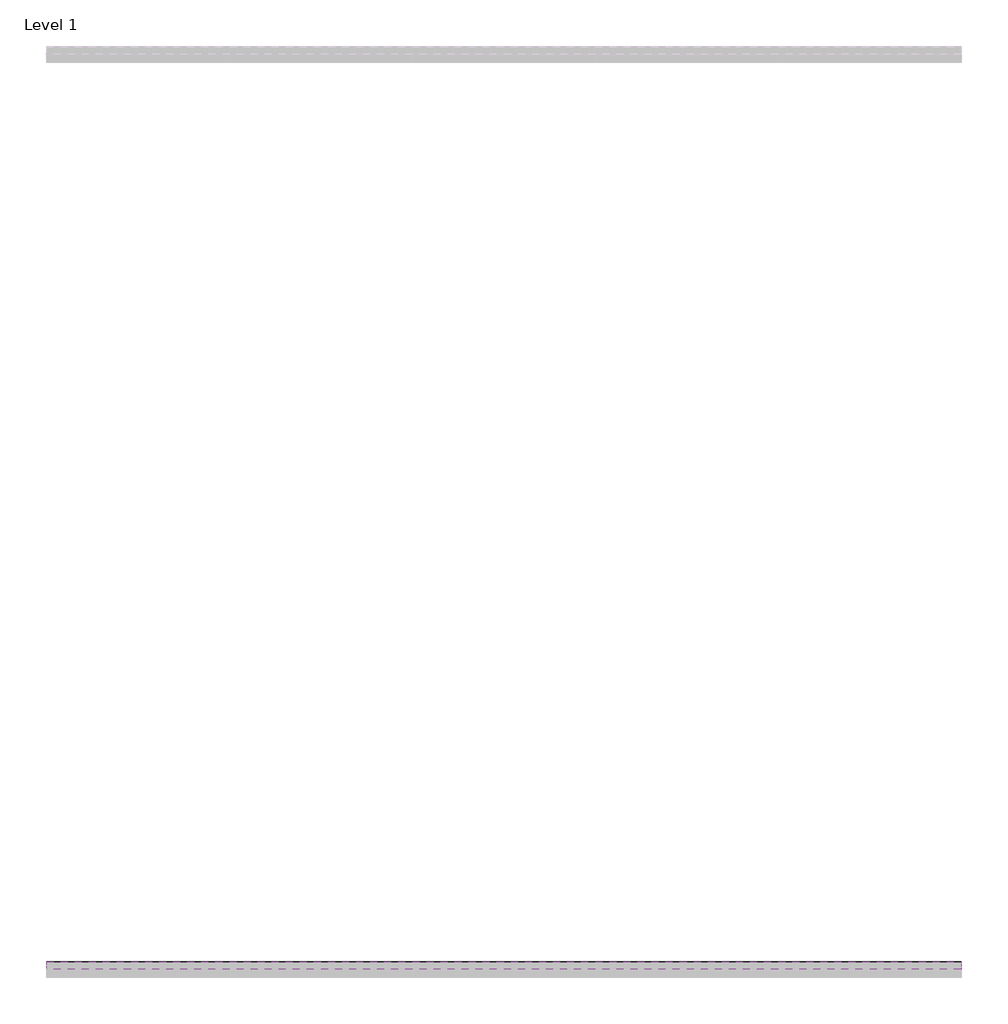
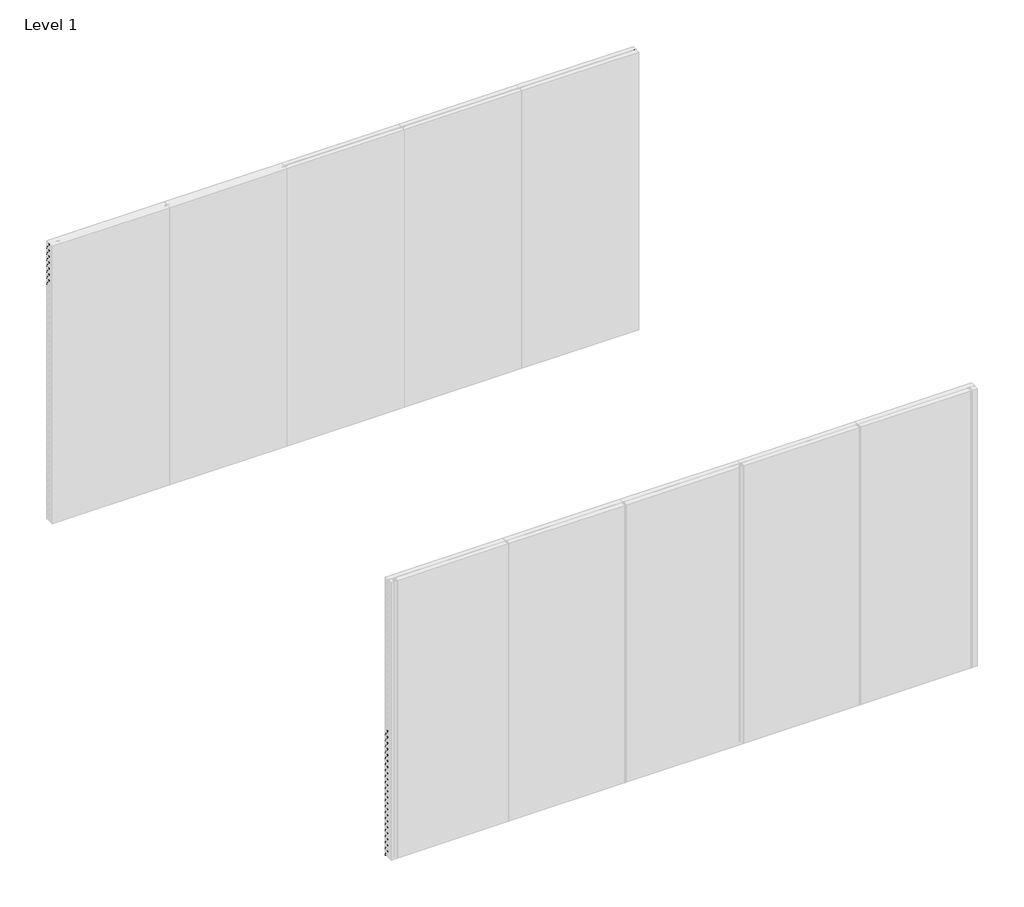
# One storey, part 4 of 7: 28 proxies.
"""IFC4 building model written with IfcOpenShell, lengths in millimetres."""

from ifc_helpers import new_model, si_unit, point, frame, frame_2d, origin, place, context, project, spatial, polyline, circle_curve, trimmed, segment, composite_curve, outline, extrude, element, save

model = new_model("IFC4")

# Units and contexts
model_context = context("Model", 3, world=origin())
ifc_project = project(units=[si_unit("LENGTHUNIT", "METRE", prefix="MILLI")], contexts=[model_context])

# Site, building, storey
site = spatial("IfcSite", under=ifc_project)
building = spatial("IfcBuilding", under=site)
storey = spatial("IfcBuildingStorey", under=building, Name="Level 1", Elevation=0.0)

# Proxies
placement = place(None, origin())
element("IfcBuildingElementProxy", 1, Name="Wall Sweeps", at=placement, inside=storey, context=model_context, shape_type="SweptSolid", body=[
    extrude(outline(composite_curve([segment(polyline([(-1992.5, 2976.0025181), (-1992.5, 2983.9509429), (-1994.5, 2983.9509429), (-1994.5, 2981.5421319), (-1996.0, 2981.5421319), (-1996.0, 2988.6499999), (-1994.5, 2988.6499999), (-1994.5, 2985.4509429), (-1992.5, 2985.4509429), (-1992.5, 2988.7999999), (-1992.1784609, 2990.0), (-1987.7000054, 2990.0), (-1987.7000054, 2986.8499997), (-1989.0835735, 2988.4999997), (-1991.0, 2988.4999997), (-1991.0, 2976.6085574), (-1946.0, 2930.0096933), (-1946.0, 2914.0), (-1947.5, 2916.6798), (-1947.5, 2919.1208496), (-1948.5, 2919.1208496), (-1948.5, 2920.6208496), (-1947.5, 2920.6208496), (-1947.5, 2929.4036539), (-1961.2088107, 2943.599543), (-1963.4375599, 2941.3707939), (-1962.8739549, 2940.8071888)]), True, "CONTINUOUS"), segment(trimmed(circle_curve(frame_2d((-1963.2275083, 2940.4536354)), 0.5), [point((-1962.8739549, 2940.8071888))], [point((-1963.3569178, 2939.9706725))], False, "CARTESIAN"), True, "CONTINUOUS"), segment(polyline([(-1963.3569178, 2939.9706725), (-1966.1977917, 2940.7318824), (-1962.250957, 2944.6787171), (-1992.5, 2976.0025181)]), True, "CONTINUOUS")], self_intersect=False)), frame((0.0, 0.0, 0.0), z_axis=(1.0, 0.0, 0.0), x_axis=(0.0, 1.0, 0.0)), (0.0, 0.0, 1.0), 6000.0),
])
element("IfcBuildingElementProxy", 2, Name="Wall Sweeps", at=placement, inside=storey, context=model_context, shape_type="SweptSolid", body=[
    extrude(outline(composite_curve([segment(polyline([(-1992.5, 2911.0025181), (-1992.5, 2918.9509429), (-1994.5, 2918.9509429), (-1994.5, 2916.5421319), (-1996.0, 2916.5421319), (-1996.0, 2923.6499999), (-1994.5, 2923.6499999), (-1994.5, 2920.4509429), (-1992.5, 2920.4509429), (-1992.5, 2923.7999999), (-1992.1784609, 2925.0), (-1987.7000054, 2925.0), (-1987.7000054, 2921.8499997), (-1989.0835735, 2923.4999997), (-1991.0, 2923.4999997), (-1991.0, 2911.6085574), (-1946.0, 2865.0096933), (-1946.0, 2849.0), (-1947.5, 2851.6798), (-1947.5, 2854.1208496), (-1948.5, 2854.1208496), (-1948.5, 2855.6208496), (-1947.5, 2855.6208496), (-1947.5, 2864.4036539), (-1961.2088107, 2878.599543), (-1963.4375599, 2876.3707939), (-1962.8739549, 2875.8071888)]), True, "CONTINUOUS"), segment(trimmed(circle_curve(frame_2d((-1963.2275083, 2875.4536354)), 0.5), [point((-1962.8739549, 2875.8071888))], [point((-1963.3569178, 2874.9706725))], False, "CARTESIAN"), True, "CONTINUOUS"), segment(polyline([(-1963.3569178, 2874.9706725), (-1966.1977917, 2875.7318824), (-1962.250957, 2879.6787171), (-1992.5, 2911.0025181)]), True, "CONTINUOUS")], self_intersect=False)), frame((0.0, 0.0, 0.0), z_axis=(1.0, 0.0, 0.0), x_axis=(0.0, 1.0, 0.0)), (0.0, 0.0, 1.0), 6000.0),
])
element("IfcBuildingElementProxy", 3, Name="Wall Sweeps", at=placement, inside=storey, context=model_context, shape_type="SweptSolid", body=[
    extrude(outline(composite_curve([segment(polyline([(-1992.5, 2846.0025181), (-1992.5, 2853.9509429), (-1994.5, 2853.9509429), (-1994.5, 2851.5421319), (-1996.0, 2851.5421319), (-1996.0, 2858.6499999), (-1994.5, 2858.6499999), (-1994.5, 2855.4509429), (-1992.5, 2855.4509429), (-1992.5, 2858.7999999), (-1992.1784609, 2860.0), (-1987.7000054, 2860.0), (-1987.7000054, 2856.8499997), (-1989.0835735, 2858.4999997), (-1991.0, 2858.4999997), (-1991.0, 2846.6085574), (-1946.0, 2800.0096933), (-1946.0, 2784.0), (-1947.5, 2786.6798), (-1947.5, 2789.1208496), (-1948.5, 2789.1208496), (-1948.5, 2790.6208496), (-1947.5, 2790.6208496), (-1947.5, 2799.4036539), (-1961.2088107, 2813.599543), (-1963.4375599, 2811.3707939), (-1962.8739549, 2810.8071888)]), True, "CONTINUOUS"), segment(trimmed(circle_curve(frame_2d((-1963.2275083, 2810.4536354)), 0.5), [point((-1962.8739549, 2810.8071888))], [point((-1963.3569178, 2809.9706725))], False, "CARTESIAN"), True, "CONTINUOUS"), segment(polyline([(-1963.3569178, 2809.9706725), (-1966.1977917, 2810.7318824), (-1962.250957, 2814.6787171), (-1992.5, 2846.0025181)]), True, "CONTINUOUS")], self_intersect=False)), frame((0.0, 0.0, 0.0), z_axis=(1.0, 0.0, 0.0), x_axis=(0.0, 1.0, 0.0)), (0.0, 0.0, 1.0), 6000.0),
])
element("IfcBuildingElementProxy", 4, Name="Wall Sweeps", at=placement, inside=storey, context=model_context, shape_type="SweptSolid", body=[
    extrude(outline(composite_curve([segment(polyline([(-1992.5, 2781.0025181), (-1992.5, 2788.9509429), (-1994.5, 2788.9509429), (-1994.5, 2786.5421319), (-1996.0, 2786.5421319), (-1996.0, 2793.6499999), (-1994.5, 2793.6499999), (-1994.5, 2790.4509429), (-1992.5, 2790.4509429), (-1992.5, 2793.7999999), (-1992.1784609, 2795.0), (-1987.7000054, 2795.0), (-1987.7000054, 2791.8499997), (-1989.0835735, 2793.4999997), (-1991.0, 2793.4999997), (-1991.0, 2781.6085574), (-1946.0, 2735.0096933), (-1946.0, 2719.0), (-1947.5, 2721.6798), (-1947.5, 2724.1208496), (-1948.5, 2724.1208496), (-1948.5, 2725.6208496), (-1947.5, 2725.6208496), (-1947.5, 2734.4036539), (-1961.2088107, 2748.599543), (-1963.4375599, 2746.3707939), (-1962.8739549, 2745.8071888)]), True, "CONTINUOUS"), segment(trimmed(circle_curve(frame_2d((-1963.2275083, 2745.4536354)), 0.5), [point((-1962.8739549, 2745.8071888))], [point((-1963.3569178, 2744.9706725))], False, "CARTESIAN"), True, "CONTINUOUS"), segment(polyline([(-1963.3569178, 2744.9706725), (-1966.1977917, 2745.7318824), (-1962.250957, 2749.6787171), (-1992.5, 2781.0025181)]), True, "CONTINUOUS")], self_intersect=False)), frame((0.0, 0.0, 0.0), z_axis=(1.0, 0.0, 0.0), x_axis=(0.0, 1.0, 0.0)), (0.0, 0.0, 1.0), 6000.0),
])
element("IfcBuildingElementProxy", 5, Name="Wall Sweeps", at=placement, inside=storey, context=model_context, shape_type="SweptSolid", body=[
    extrude(outline(composite_curve([segment(polyline([(-1992.5, 2716.0025181), (-1992.5, 2723.9509429), (-1994.5, 2723.9509429), (-1994.5, 2721.5421319), (-1996.0, 2721.5421319), (-1996.0, 2728.6499999), (-1994.5, 2728.6499999), (-1994.5, 2725.4509429), (-1992.5, 2725.4509429), (-1992.5, 2728.7999999), (-1992.1784609, 2730.0), (-1987.7000054, 2730.0), (-1987.7000054, 2726.8499997), (-1989.0835735, 2728.4999997), (-1991.0, 2728.4999997), (-1991.0, 2716.6085574), (-1946.0, 2670.0096933), (-1946.0, 2654.0), (-1947.5, 2656.6798), (-1947.5, 2659.1208496), (-1948.5, 2659.1208496), (-1948.5, 2660.6208496), (-1947.5, 2660.6208496), (-1947.5, 2669.4036539), (-1961.2088107, 2683.599543), (-1963.4375599, 2681.3707939), (-1962.8739549, 2680.8071888)]), True, "CONTINUOUS"), segment(trimmed(circle_curve(frame_2d((-1963.2275083, 2680.4536354)), 0.5), [point((-1962.8739549, 2680.8071888))], [point((-1963.3569178, 2679.9706725))], False, "CARTESIAN"), True, "CONTINUOUS"), segment(polyline([(-1963.3569178, 2679.9706725), (-1966.1977917, 2680.7318824), (-1962.250957, 2684.6787171), (-1992.5, 2716.0025181)]), True, "CONTINUOUS")], self_intersect=False)), frame((0.0, 0.0, 0.0), z_axis=(1.0, 0.0, 0.0), x_axis=(0.0, 1.0, 0.0)), (0.0, 0.0, 1.0), 6000.0),
])
element("IfcBuildingElementProxy", 6, Name="Wall Sweeps", at=placement, inside=storey, context=model_context, shape_type="SweptSolid", body=[
    extrude(outline(composite_curve([segment(polyline([(-1992.5, 2651.0025181), (-1992.5, 2658.9509429), (-1994.5, 2658.9509429), (-1994.5, 2656.5421319), (-1996.0, 2656.5421319), (-1996.0, 2663.6499999), (-1994.5, 2663.6499999), (-1994.5, 2660.4509429), (-1992.5, 2660.4509429), (-1992.5, 2663.7999999), (-1992.1784609, 2665.0), (-1987.7000054, 2665.0), (-1987.7000054, 2661.8499997), (-1989.0835735, 2663.4999997), (-1991.0, 2663.4999997), (-1991.0, 2651.6085574), (-1946.0, 2605.0096933), (-1946.0, 2589.0), (-1947.5, 2591.6798), (-1947.5, 2594.1208496), (-1948.5, 2594.1208496), (-1948.5, 2595.6208496), (-1947.5, 2595.6208496), (-1947.5, 2604.4036539), (-1961.2088107, 2618.599543), (-1963.4375599, 2616.3707939), (-1962.8739549, 2615.8071888)]), True, "CONTINUOUS"), segment(trimmed(circle_curve(frame_2d((-1963.2275083, 2615.4536354)), 0.5), [point((-1962.8739549, 2615.8071888))], [point((-1963.3569178, 2614.9706725))], False, "CARTESIAN"), True, "CONTINUOUS"), segment(polyline([(-1963.3569178, 2614.9706725), (-1966.1977917, 2615.7318824), (-1962.250957, 2619.6787171), (-1992.5, 2651.0025181)]), True, "CONTINUOUS")], self_intersect=False)), frame((0.0, 0.0, 0.0), z_axis=(1.0, 0.0, 0.0), x_axis=(0.0, 1.0, 0.0)), (0.0, 0.0, 1.0), 6000.0),
])
element("IfcBuildingElementProxy", 7, Name="Wall Sweeps", at=placement, inside=storey, context=model_context, shape_type="SweptSolid", body=[
    extrude(outline(composite_curve([segment(polyline([(-1992.5, 2586.0025181), (-1992.5, 2593.9509429), (-1994.5, 2593.9509429), (-1994.5, 2591.5421319), (-1996.0, 2591.5421319), (-1996.0, 2598.6499999), (-1994.5, 2598.6499999), (-1994.5, 2595.4509429), (-1992.5, 2595.4509429), (-1992.5, 2598.7999999), (-1992.1784609, 2600.0), (-1987.7000054, 2600.0), (-1987.7000054, 2596.8499997), (-1989.0835735, 2598.4999997), (-1991.0, 2598.4999997), (-1991.0, 2586.6085574), (-1946.0, 2540.0096933), (-1946.0, 2524.0), (-1947.5, 2526.6798), (-1947.5, 2529.1208496), (-1948.5, 2529.1208496), (-1948.5, 2530.6208496), (-1947.5, 2530.6208496), (-1947.5, 2539.4036539), (-1961.2088107, 2553.599543), (-1963.4375599, 2551.3707939), (-1962.8739549, 2550.8071888)]), True, "CONTINUOUS"), segment(trimmed(circle_curve(frame_2d((-1963.2275083, 2550.4536354)), 0.5), [point((-1962.8739549, 2550.8071888))], [point((-1963.3569178, 2549.9706725))], False, "CARTESIAN"), True, "CONTINUOUS"), segment(polyline([(-1963.3569178, 2549.9706725), (-1966.1977917, 2550.7318824), (-1962.250957, 2554.6787171), (-1992.5, 2586.0025181)]), True, "CONTINUOUS")], self_intersect=False)), frame((0.0, 0.0, 0.0), z_axis=(1.0, 0.0, 0.0), x_axis=(0.0, 1.0, 0.0)), (0.0, 0.0, 1.0), 6000.0),
])
element("IfcBuildingElementProxy", 8, Name="Wall Sweeps", at=placement, inside=storey, context=model_context, shape_type="SweptSolid", body=[
    extrude(outline(composite_curve([segment(polyline([(-7992.5, 1351.0025181), (-7992.5, 1358.9509429), (-7994.5, 1358.9509429), (-7994.5, 1356.5421319), (-7996.0, 1356.5421319), (-7996.0, 1363.6499999), (-7994.5, 1363.6499999), (-7994.5, 1360.4509429), (-7992.5, 1360.4509429), (-7992.5, 1363.7999999), (-7992.1784609, 1365.0), (-7987.7000054, 1365.0), (-7987.7000054, 1361.8499997), (-7989.0835735, 1363.4999997), (-7991.0, 1363.4999997), (-7991.0, 1351.6085574), (-7946.0, 1305.0096933), (-7946.0, 1289.0), (-7947.5, 1291.6798), (-7947.5, 1294.1208496), (-7948.5, 1294.1208496), (-7948.5, 1295.6208496), (-7947.5, 1295.6208496), (-7947.5, 1304.4036539), (-7961.2088107, 1318.599543), (-7963.4375599, 1316.3707939), (-7962.8739549, 1315.8071888)]), True, "CONTINUOUS"), segment(trimmed(circle_curve(frame_2d((-7963.2275083, 1315.4536354)), 0.5), [point((-7962.8739549, 1315.8071888))], [point((-7963.3569178, 1314.9706725))], False, "CARTESIAN"), True, "CONTINUOUS"), segment(polyline([(-7963.3569178, 1314.9706725), (-7966.1977917, 1315.7318824), (-7962.250957, 1319.6787171), (-7992.5, 1351.0025181)]), True, "CONTINUOUS")], self_intersect=False)), frame((0.0, 0.0, 0.0), z_axis=(1.0, 0.0, 0.0), x_axis=(0.0, 1.0, 0.0)), (0.0, 0.0, 1.0), 6000.0),
])
element("IfcBuildingElementProxy", 9, Name="Wall Sweeps", at=placement, inside=storey, context=model_context, shape_type="SweptSolid", body=[
    extrude(outline(composite_curve([segment(polyline([(-7992.5, 1286.0025181), (-7992.5, 1293.9509429), (-7994.5, 1293.9509429), (-7994.5, 1291.5421319), (-7996.0, 1291.5421319), (-7996.0, 1298.6499999), (-7994.5, 1298.6499999), (-7994.5, 1295.4509429), (-7992.5, 1295.4509429), (-7992.5, 1298.7999999), (-7992.1784609, 1300.0), (-7987.7000054, 1300.0), (-7987.7000054, 1296.8499997), (-7989.0835735, 1298.4999997), (-7991.0, 1298.4999997), (-7991.0, 1286.6085574), (-7946.0, 1240.0096933), (-7946.0, 1224.0), (-7947.5, 1226.6798), (-7947.5, 1229.1208496), (-7948.5, 1229.1208496), (-7948.5, 1230.6208496), (-7947.5, 1230.6208496), (-7947.5, 1239.4036539), (-7961.2088107, 1253.599543), (-7963.4375599, 1251.3707939), (-7962.8739549, 1250.8071888)]), True, "CONTINUOUS"), segment(trimmed(circle_curve(frame_2d((-7963.2275083, 1250.4536354)), 0.5), [point((-7962.8739549, 1250.8071888))], [point((-7963.3569178, 1249.9706725))], False, "CARTESIAN"), True, "CONTINUOUS"), segment(polyline([(-7963.3569178, 1249.9706725), (-7966.1977917, 1250.7318824), (-7962.250957, 1254.6787171), (-7992.5, 1286.0025181)]), True, "CONTINUOUS")], self_intersect=False)), frame((0.0, 0.0, 0.0), z_axis=(1.0, 0.0, 0.0), x_axis=(0.0, 1.0, 0.0)), (0.0, 0.0, 1.0), 6000.0),
])
element("IfcBuildingElementProxy", 10, Name="Wall Sweeps", at=placement, inside=storey, context=model_context, shape_type="SweptSolid", body=[
    extrude(outline(composite_curve([segment(polyline([(-7992.5, 1221.0025181), (-7992.5, 1228.9509429), (-7994.5, 1228.9509429), (-7994.5, 1226.5421319), (-7996.0, 1226.5421319), (-7996.0, 1233.6499999), (-7994.5, 1233.6499999), (-7994.5, 1230.4509429), (-7992.5, 1230.4509429), (-7992.5, 1233.7999999), (-7992.1784609, 1235.0), (-7987.7000054, 1235.0), (-7987.7000054, 1231.8499997), (-7989.0835735, 1233.4999997), (-7991.0, 1233.4999997), (-7991.0, 1221.6085574), (-7946.0, 1175.0096933), (-7946.0, 1159.0), (-7947.5, 1161.6798), (-7947.5, 1164.1208496), (-7948.5, 1164.1208496), (-7948.5, 1165.6208496), (-7947.5, 1165.6208496), (-7947.5, 1174.4036539), (-7961.2088107, 1188.599543), (-7963.4375599, 1186.3707939), (-7962.8739549, 1185.8071888)]), True, "CONTINUOUS"), segment(trimmed(circle_curve(frame_2d((-7963.2275083, 1185.4536354)), 0.5), [point((-7962.8739549, 1185.8071888))], [point((-7963.3569178, 1184.9706725))], False, "CARTESIAN"), True, "CONTINUOUS"), segment(polyline([(-7963.3569178, 1184.9706725), (-7966.1977917, 1185.7318824), (-7962.250957, 1189.6787171), (-7992.5, 1221.0025181)]), True, "CONTINUOUS")], self_intersect=False)), frame((0.0, 0.0, 0.0), z_axis=(1.0, 0.0, 0.0), x_axis=(0.0, 1.0, 0.0)), (0.0, 0.0, 1.0), 6000.0),
])
element("IfcBuildingElementProxy", 11, Name="Wall Sweeps", at=placement, inside=storey, context=model_context, shape_type="SweptSolid", body=[
    extrude(outline(composite_curve([segment(polyline([(-7992.5, 1156.0025181), (-7992.5, 1163.9509429), (-7994.5, 1163.9509429), (-7994.5, 1161.5421319), (-7996.0, 1161.5421319), (-7996.0, 1168.6499999), (-7994.5, 1168.6499999), (-7994.5, 1165.4509429), (-7992.5, 1165.4509429), (-7992.5, 1168.7999999), (-7992.1784609, 1170.0), (-7987.7000054, 1170.0), (-7987.7000054, 1166.8499997), (-7989.0835735, 1168.4999997), (-7991.0, 1168.4999997), (-7991.0, 1156.6085574), (-7946.0, 1110.0096933), (-7946.0, 1094.0), (-7947.5, 1096.6798), (-7947.5, 1099.1208496), (-7948.5, 1099.1208496), (-7948.5, 1100.6208496), (-7947.5, 1100.6208496), (-7947.5, 1109.4036539), (-7961.2088107, 1123.599543), (-7963.4375599, 1121.3707939), (-7962.8739549, 1120.8071888)]), True, "CONTINUOUS"), segment(trimmed(circle_curve(frame_2d((-7963.2275083, 1120.4536354)), 0.5), [point((-7962.8739549, 1120.8071888))], [point((-7963.3569178, 1119.9706725))], False, "CARTESIAN"), True, "CONTINUOUS"), segment(polyline([(-7963.3569178, 1119.9706725), (-7966.1977917, 1120.7318824), (-7962.250957, 1124.6787171), (-7992.5, 1156.0025181)]), True, "CONTINUOUS")], self_intersect=False)), frame((0.0, 0.0, 0.0), z_axis=(1.0, 0.0, 0.0), x_axis=(0.0, 1.0, 0.0)), (0.0, 0.0, 1.0), 6000.0),
])
element("IfcBuildingElementProxy", 12, Name="Wall Sweeps", at=placement, inside=storey, context=model_context, shape_type="SweptSolid", body=[
    extrude(outline(composite_curve([segment(polyline([(-7992.5, 1091.0025181), (-7992.5, 1098.9509429), (-7994.5, 1098.9509429), (-7994.5, 1096.5421319), (-7996.0, 1096.5421319), (-7996.0, 1103.6499999), (-7994.5, 1103.6499999), (-7994.5, 1100.4509429), (-7992.5, 1100.4509429), (-7992.5, 1103.7999999), (-7992.1784609, 1105.0), (-7987.7000054, 1105.0), (-7987.7000054, 1101.8499997), (-7989.0835735, 1103.4999997), (-7991.0, 1103.4999997), (-7991.0, 1091.6085574), (-7946.0, 1045.0096933), (-7946.0, 1029.0), (-7947.5, 1031.6798), (-7947.5, 1034.1208496), (-7948.5, 1034.1208496), (-7948.5, 1035.6208496), (-7947.5, 1035.6208496), (-7947.5, 1044.4036539), (-7961.2088107, 1058.599543), (-7963.4375599, 1056.3707939), (-7962.8739549, 1055.8071888)]), True, "CONTINUOUS"), segment(trimmed(circle_curve(frame_2d((-7963.2275083, 1055.4536354)), 0.5), [point((-7962.8739549, 1055.8071888))], [point((-7963.3569178, 1054.9706725))], False, "CARTESIAN"), True, "CONTINUOUS"), segment(polyline([(-7963.3569178, 1054.9706725), (-7966.1977917, 1055.7318824), (-7962.250957, 1059.6787171), (-7992.5, 1091.0025181)]), True, "CONTINUOUS")], self_intersect=False)), frame((0.0, 0.0, 0.0), z_axis=(1.0, 0.0, 0.0), x_axis=(0.0, 1.0, 0.0)), (0.0, 0.0, 1.0), 6000.0),
])
element("IfcBuildingElementProxy", 13, Name="Wall Sweeps", at=placement, inside=storey, context=model_context, shape_type="SweptSolid", body=[
    extrude(outline(composite_curve([segment(polyline([(-7992.5, 1026.0025181), (-7992.5, 1033.9509429), (-7994.5, 1033.9509429), (-7994.5, 1031.5421319), (-7996.0, 1031.5421319), (-7996.0, 1038.6499999), (-7994.5, 1038.6499999), (-7994.5, 1035.4509429), (-7992.5, 1035.4509429), (-7992.5, 1038.7999999), (-7992.1784609, 1040.0), (-7987.7000054, 1040.0), (-7987.7000054, 1036.8499997), (-7989.0835735, 1038.4999997), (-7991.0, 1038.4999997), (-7991.0, 1026.6085574), (-7946.0, 980.0096933), (-7946.0, 964.0), (-7947.5, 966.6798), (-7947.5, 969.1208496), (-7948.5, 969.1208496), (-7948.5, 970.6208496), (-7947.5, 970.6208496), (-7947.5, 979.4036539), (-7961.2088107, 993.599543), (-7963.4375599, 991.3707939), (-7962.8739549, 990.8071888)]), True, "CONTINUOUS"), segment(trimmed(circle_curve(frame_2d((-7963.2275083, 990.4536354)), 0.5), [point((-7962.8739549, 990.8071888))], [point((-7963.3569178, 989.9706725))], False, "CARTESIAN"), True, "CONTINUOUS"), segment(polyline([(-7963.3569178, 989.9706725), (-7966.1977917, 990.7318824), (-7962.250957, 994.6787171), (-7992.5, 1026.0025181)]), True, "CONTINUOUS")], self_intersect=False)), frame((0.0, 0.0, 0.0), z_axis=(1.0, 0.0, 0.0), x_axis=(0.0, 1.0, 0.0)), (0.0, 0.0, 1.0), 6000.0),
])
element("IfcBuildingElementProxy", 14, Name="Wall Sweeps", at=placement, inside=storey, context=model_context, shape_type="SweptSolid", body=[
    extrude(outline(composite_curve([segment(polyline([(-7992.5, 961.0025181), (-7992.5, 968.9509429), (-7994.5, 968.9509429), (-7994.5, 966.5421319), (-7996.0, 966.5421319), (-7996.0, 973.6499999), (-7994.5, 973.6499999), (-7994.5, 970.4509429), (-7992.5, 970.4509429), (-7992.5, 973.7999999), (-7992.1784609, 975.0), (-7987.7000054, 975.0), (-7987.7000054, 971.8499997), (-7989.0835735, 973.4999997), (-7991.0, 973.4999997), (-7991.0, 961.6085574), (-7946.0, 915.0096933), (-7946.0, 899.0), (-7947.5, 901.6798), (-7947.5, 904.1208496), (-7948.5, 904.1208496), (-7948.5, 905.6208496), (-7947.5, 905.6208496), (-7947.5, 914.4036539), (-7961.2088107, 928.599543), (-7963.4375599, 926.3707939), (-7962.8739549, 925.8071888)]), True, "CONTINUOUS"), segment(trimmed(circle_curve(frame_2d((-7963.2275083, 925.4536354)), 0.5), [point((-7962.8739549, 925.8071888))], [point((-7963.3569178, 924.9706725))], False, "CARTESIAN"), True, "CONTINUOUS"), segment(polyline([(-7963.3569178, 924.9706725), (-7966.1977917, 925.7318824), (-7962.250957, 929.6787171), (-7992.5, 961.0025181)]), True, "CONTINUOUS")], self_intersect=False)), frame((0.0, 0.0, 0.0), z_axis=(1.0, 0.0, 0.0), x_axis=(0.0, 1.0, 0.0)), (0.0, 0.0, 1.0), 6000.0),
])
element("IfcBuildingElementProxy", 15, Name="Wall Sweeps", at=placement, inside=storey, context=model_context, shape_type="SweptSolid", body=[
    extrude(outline(composite_curve([segment(polyline([(-7992.5, 896.0025181), (-7992.5, 903.9509429), (-7994.5, 903.9509429), (-7994.5, 901.5421319), (-7996.0, 901.5421319), (-7996.0, 908.6499999), (-7994.5, 908.6499999), (-7994.5, 905.4509429), (-7992.5, 905.4509429), (-7992.5, 908.7999999), (-7992.1784609, 910.0), (-7987.7000054, 910.0), (-7987.7000054, 906.8499997), (-7989.0835735, 908.4999997), (-7991.0, 908.4999997), (-7991.0, 896.6085574), (-7946.0, 850.0096933), (-7946.0, 834.0), (-7947.5, 836.6798), (-7947.5, 839.1208496), (-7948.5, 839.1208496), (-7948.5, 840.6208496), (-7947.5, 840.6208496), (-7947.5, 849.4036539), (-7961.2088107, 863.599543), (-7963.4375599, 861.3707939), (-7962.8739549, 860.8071888)]), True, "CONTINUOUS"), segment(trimmed(circle_curve(frame_2d((-7963.2275083, 860.4536354)), 0.5), [point((-7962.8739549, 860.8071888))], [point((-7963.3569178, 859.9706725))], False, "CARTESIAN"), True, "CONTINUOUS"), segment(polyline([(-7963.3569178, 859.9706725), (-7966.1977917, 860.7318824), (-7962.250957, 864.6787171), (-7992.5, 896.0025181)]), True, "CONTINUOUS")], self_intersect=False)), frame((0.0, 0.0, 0.0), z_axis=(1.0, 0.0, 0.0), x_axis=(0.0, 1.0, 0.0)), (0.0, 0.0, 1.0), 6000.0),
])
element("IfcBuildingElementProxy", 16, Name="Wall Sweeps", at=placement, inside=storey, context=model_context, shape_type="SweptSolid", body=[
    extrude(outline(composite_curve([segment(polyline([(-7992.5, 831.0025181), (-7992.5, 838.9509429), (-7994.5, 838.9509429), (-7994.5, 836.5421319), (-7996.0, 836.5421319), (-7996.0, 843.6499999), (-7994.5, 843.6499999), (-7994.5, 840.4509429), (-7992.5, 840.4509429), (-7992.5, 843.7999999), (-7992.1784609, 845.0), (-7987.7000054, 845.0), (-7987.7000054, 841.8499997), (-7989.0835735, 843.4999997), (-7991.0, 843.4999997), (-7991.0, 831.6085574), (-7946.0, 785.0096933), (-7946.0, 769.0), (-7947.5, 771.6798), (-7947.5, 774.1208496), (-7948.5, 774.1208496), (-7948.5, 775.6208496), (-7947.5, 775.6208496), (-7947.5, 784.4036539), (-7961.2088107, 798.599543), (-7963.4375599, 796.3707939), (-7962.8739549, 795.8071888)]), True, "CONTINUOUS"), segment(trimmed(circle_curve(frame_2d((-7963.2275083, 795.4536354)), 0.5), [point((-7962.8739549, 795.8071888))], [point((-7963.3569178, 794.9706725))], False, "CARTESIAN"), True, "CONTINUOUS"), segment(polyline([(-7963.3569178, 794.9706725), (-7966.1977917, 795.7318824), (-7962.250957, 799.6787171), (-7992.5, 831.0025181)]), True, "CONTINUOUS")], self_intersect=False)), frame((0.0, 0.0, 0.0), z_axis=(1.0, 0.0, 0.0), x_axis=(0.0, 1.0, 0.0)), (0.0, 0.0, 1.0), 6000.0),
])
element("IfcBuildingElementProxy", 17, Name="Wall Sweeps", at=placement, inside=storey, context=model_context, shape_type="SweptSolid", body=[
    extrude(outline(composite_curve([segment(polyline([(-7992.5, 766.0025181), (-7992.5, 773.9509429), (-7994.5, 773.9509429), (-7994.5, 771.5421319), (-7996.0, 771.5421319), (-7996.0, 778.6499999), (-7994.5, 778.6499999), (-7994.5, 775.4509429), (-7992.5, 775.4509429), (-7992.5, 778.7999999), (-7992.1784609, 780.0), (-7987.7000054, 780.0), (-7987.7000054, 776.8499997), (-7989.0835735, 778.4999997), (-7991.0, 778.4999997), (-7991.0, 766.6085574), (-7946.0, 720.0096933), (-7946.0, 704.0), (-7947.5, 706.6798), (-7947.5, 709.1208496), (-7948.5, 709.1208496), (-7948.5, 710.6208496), (-7947.5, 710.6208496), (-7947.5, 719.4036539), (-7961.2088107, 733.599543), (-7963.4375599, 731.3707939), (-7962.8739549, 730.8071888)]), True, "CONTINUOUS"), segment(trimmed(circle_curve(frame_2d((-7963.2275083, 730.4536354)), 0.5), [point((-7962.8739549, 730.8071888))], [point((-7963.3569178, 729.9706725))], False, "CARTESIAN"), True, "CONTINUOUS"), segment(polyline([(-7963.3569178, 729.9706725), (-7966.1977917, 730.7318824), (-7962.250957, 734.6787171), (-7992.5, 766.0025181)]), True, "CONTINUOUS")], self_intersect=False)), frame((0.0, 0.0, 0.0), z_axis=(1.0, 0.0, 0.0), x_axis=(0.0, 1.0, 0.0)), (0.0, 0.0, 1.0), 6000.0),
])
element("IfcBuildingElementProxy", 18, Name="Wall Sweeps", at=placement, inside=storey, context=model_context, shape_type="SweptSolid", body=[
    extrude(outline(composite_curve([segment(polyline([(-7992.5, 701.0025181), (-7992.5, 708.9509429), (-7994.5, 708.9509429), (-7994.5, 706.5421319), (-7996.0, 706.5421319), (-7996.0, 713.6499999), (-7994.5, 713.6499999), (-7994.5, 710.4509429), (-7992.5, 710.4509429), (-7992.5, 713.7999999), (-7992.1784609, 715.0), (-7987.7000054, 715.0), (-7987.7000054, 711.8499997), (-7989.0835735, 713.4999997), (-7991.0, 713.4999997), (-7991.0, 701.6085574), (-7946.0, 655.0096933), (-7946.0, 639.0), (-7947.5, 641.6798), (-7947.5, 644.1208496), (-7948.5, 644.1208496), (-7948.5, 645.6208496), (-7947.5, 645.6208496), (-7947.5, 654.4036539), (-7961.2088107, 668.599543), (-7963.4375599, 666.3707939), (-7962.8739549, 665.8071888)]), True, "CONTINUOUS"), segment(trimmed(circle_curve(frame_2d((-7963.2275083, 665.4536354)), 0.5), [point((-7962.8739549, 665.8071888))], [point((-7963.3569178, 664.9706725))], False, "CARTESIAN"), True, "CONTINUOUS"), segment(polyline([(-7963.3569178, 664.9706725), (-7966.1977917, 665.7318824), (-7962.250957, 669.6787171), (-7992.5, 701.0025181)]), True, "CONTINUOUS")], self_intersect=False)), frame((0.0, 0.0, 0.0), z_axis=(1.0, 0.0, 0.0), x_axis=(0.0, 1.0, 0.0)), (0.0, 0.0, 1.0), 6000.0),
])
element("IfcBuildingElementProxy", 19, Name="Wall Sweeps", at=placement, inside=storey, context=model_context, shape_type="SweptSolid", body=[
    extrude(outline(composite_curve([segment(polyline([(-7992.5, 636.0025181), (-7992.5, 643.9509429), (-7994.5, 643.9509429), (-7994.5, 641.5421319), (-7996.0, 641.5421319), (-7996.0, 648.6499999), (-7994.5, 648.6499999), (-7994.5, 645.4509429), (-7992.5, 645.4509429), (-7992.5, 648.7999999), (-7992.1784609, 650.0), (-7987.7000054, 650.0), (-7987.7000054, 646.8499997), (-7989.0835735, 648.4999997), (-7991.0, 648.4999997), (-7991.0, 636.6085574), (-7946.0, 590.0096933), (-7946.0, 574.0), (-7947.5, 576.6798), (-7947.5, 579.1208496), (-7948.5, 579.1208496), (-7948.5, 580.6208496), (-7947.5, 580.6208496), (-7947.5, 589.4036539), (-7961.2088107, 603.599543), (-7963.4375599, 601.3707939), (-7962.8739549, 600.8071888)]), True, "CONTINUOUS"), segment(trimmed(circle_curve(frame_2d((-7963.2275083, 600.4536354)), 0.5), [point((-7962.8739549, 600.8071888))], [point((-7963.3569178, 599.9706725))], False, "CARTESIAN"), True, "CONTINUOUS"), segment(polyline([(-7963.3569178, 599.9706725), (-7966.1977917, 600.7318824), (-7962.250957, 604.6787171), (-7992.5, 636.0025181)]), True, "CONTINUOUS")], self_intersect=False)), frame((0.0, 0.0, 0.0), z_axis=(1.0, 0.0, 0.0), x_axis=(0.0, 1.0, 0.0)), (0.0, 0.0, 1.0), 6000.0),
])
element("IfcBuildingElementProxy", 20, Name="Wall Sweeps", at=placement, inside=storey, context=model_context, shape_type="SweptSolid", body=[
    extrude(outline(composite_curve([segment(polyline([(-7992.5, 571.0025181), (-7992.5, 578.9509429), (-7994.5, 578.9509429), (-7994.5, 576.5421319), (-7996.0, 576.5421319), (-7996.0, 583.6499999), (-7994.5, 583.6499999), (-7994.5, 580.4509429), (-7992.5, 580.4509429), (-7992.5, 583.7999999), (-7992.1784609, 585.0), (-7987.7000054, 585.0), (-7987.7000054, 581.8499997), (-7989.0835735, 583.4999997), (-7991.0, 583.4999997), (-7991.0, 571.6085574), (-7946.0, 525.0096933), (-7946.0, 509.0), (-7947.5, 511.6798), (-7947.5, 514.1208496), (-7948.5, 514.1208496), (-7948.5, 515.6208496), (-7947.5, 515.6208496), (-7947.5, 524.4036539), (-7961.2088107, 538.599543), (-7963.4375599, 536.3707939), (-7962.8739549, 535.8071888)]), True, "CONTINUOUS"), segment(trimmed(circle_curve(frame_2d((-7963.2275083, 535.4536354)), 0.5), [point((-7962.8739549, 535.8071888))], [point((-7963.3569178, 534.9706725))], False, "CARTESIAN"), True, "CONTINUOUS"), segment(polyline([(-7963.3569178, 534.9706725), (-7966.1977917, 535.7318824), (-7962.250957, 539.6787171), (-7992.5, 571.0025181)]), True, "CONTINUOUS")], self_intersect=False)), frame((0.0, 0.0, 0.0), z_axis=(1.0, 0.0, 0.0), x_axis=(0.0, 1.0, 0.0)), (0.0, 0.0, 1.0), 6000.0),
])
element("IfcBuildingElementProxy", 21, Name="Wall Sweeps", at=placement, inside=storey, context=model_context, shape_type="SweptSolid", body=[
    extrude(outline(composite_curve([segment(polyline([(-7992.5, 506.0025181), (-7992.5, 513.9509429), (-7994.5, 513.9509429), (-7994.5, 511.5421319), (-7996.0, 511.5421319), (-7996.0, 518.6499999), (-7994.5, 518.6499999), (-7994.5, 515.4509429), (-7992.5, 515.4509429), (-7992.5, 518.7999999), (-7992.1784609, 520.0), (-7987.7000054, 520.0), (-7987.7000054, 516.8499997), (-7989.0835735, 518.4999997), (-7991.0, 518.4999997), (-7991.0, 506.6085574), (-7946.0, 460.0096933), (-7946.0, 444.0), (-7947.5, 446.6798), (-7947.5, 449.1208496), (-7948.5, 449.1208496), (-7948.5, 450.6208496), (-7947.5, 450.6208496), (-7947.5, 459.4036539), (-7961.2088107, 473.599543), (-7963.4375599, 471.3707939), (-7962.8739549, 470.8071888)]), True, "CONTINUOUS"), segment(trimmed(circle_curve(frame_2d((-7963.2275083, 470.4536354)), 0.5), [point((-7962.8739549, 470.8071888))], [point((-7963.3569178, 469.9706725))], False, "CARTESIAN"), True, "CONTINUOUS"), segment(polyline([(-7963.3569178, 469.9706725), (-7966.1977917, 470.7318824), (-7962.250957, 474.6787171), (-7992.5, 506.0025181)]), True, "CONTINUOUS")], self_intersect=False)), frame((0.0, 0.0, 0.0), z_axis=(1.0, 0.0, 0.0), x_axis=(0.0, 1.0, 0.0)), (0.0, 0.0, 1.0), 6000.0),
])
element("IfcBuildingElementProxy", 22, Name="Wall Sweeps", at=placement, inside=storey, context=model_context, shape_type="SweptSolid", body=[
    extrude(outline(composite_curve([segment(polyline([(-7992.5, 441.0025181), (-7992.5, 448.9509429), (-7994.5, 448.9509429), (-7994.5, 446.5421319), (-7996.0, 446.5421319), (-7996.0, 453.6499999), (-7994.5, 453.6499999), (-7994.5, 450.4509429), (-7992.5, 450.4509429), (-7992.5, 453.7999999), (-7992.1784609, 455.0), (-7987.7000054, 455.0), (-7987.7000054, 451.8499997), (-7989.0835735, 453.4999997), (-7991.0, 453.4999997), (-7991.0, 441.6085574), (-7946.0, 395.0096933), (-7946.0, 379.0), (-7947.5, 381.6798), (-7947.5, 384.1208496), (-7948.5, 384.1208496), (-7948.5, 385.6208496), (-7947.5, 385.6208496), (-7947.5, 394.4036539), (-7961.2088107, 408.599543), (-7963.4375599, 406.3707939), (-7962.8739549, 405.8071888)]), True, "CONTINUOUS"), segment(trimmed(circle_curve(frame_2d((-7963.2275083, 405.4536354)), 0.5), [point((-7962.8739549, 405.8071888))], [point((-7963.3569178, 404.9706725))], False, "CARTESIAN"), True, "CONTINUOUS"), segment(polyline([(-7963.3569178, 404.9706725), (-7966.1977917, 405.7318824), (-7962.250957, 409.6787171), (-7992.5, 441.0025181)]), True, "CONTINUOUS")], self_intersect=False)), frame((0.0, 0.0, 0.0), z_axis=(1.0, 0.0, 0.0), x_axis=(0.0, 1.0, 0.0)), (0.0, 0.0, 1.0), 6000.0),
])
element("IfcBuildingElementProxy", 23, Name="Wall Sweeps", at=placement, inside=storey, context=model_context, shape_type="SweptSolid", body=[
    extrude(outline(composite_curve([segment(polyline([(-7992.5, 376.0025181), (-7992.5, 383.9509429), (-7994.5, 383.9509429), (-7994.5, 381.5421319), (-7996.0, 381.5421319), (-7996.0, 388.6499999), (-7994.5, 388.6499999), (-7994.5, 385.4509429), (-7992.5, 385.4509429), (-7992.5, 388.7999999), (-7992.1784609, 390.0), (-7987.7000054, 390.0), (-7987.7000054, 386.8499997), (-7989.0835735, 388.4999997), (-7991.0, 388.4999997), (-7991.0, 376.6085574), (-7946.0, 330.0096933), (-7946.0, 314.0), (-7947.5, 316.6798), (-7947.5, 319.1208496), (-7948.5, 319.1208496), (-7948.5, 320.6208496), (-7947.5, 320.6208496), (-7947.5, 329.4036539), (-7961.2088107, 343.599543), (-7963.4375599, 341.3707939), (-7962.8739549, 340.8071888)]), True, "CONTINUOUS"), segment(trimmed(circle_curve(frame_2d((-7963.2275083, 340.4536354)), 0.5), [point((-7962.8739549, 340.8071888))], [point((-7963.3569178, 339.9706725))], False, "CARTESIAN"), True, "CONTINUOUS"), segment(polyline([(-7963.3569178, 339.9706725), (-7966.1977917, 340.7318824), (-7962.250957, 344.6787171), (-7992.5, 376.0025181)]), True, "CONTINUOUS")], self_intersect=False)), frame((0.0, 0.0, 0.0), z_axis=(1.0, 0.0, 0.0), x_axis=(0.0, 1.0, 0.0)), (0.0, 0.0, 1.0), 6000.0),
])
element("IfcBuildingElementProxy", 24, Name="Wall Sweeps", at=placement, inside=storey, context=model_context, shape_type="SweptSolid", body=[
    extrude(outline(composite_curve([segment(polyline([(-7992.5, 311.0025181), (-7992.5, 318.9509429), (-7994.5, 318.9509429), (-7994.5, 316.5421319), (-7996.0, 316.5421319), (-7996.0, 323.6499999), (-7994.5, 323.6499999), (-7994.5, 320.4509429), (-7992.5, 320.4509429), (-7992.5, 323.7999999), (-7992.1784609, 325.0), (-7987.7000054, 325.0), (-7987.7000054, 321.8499997), (-7989.0835735, 323.4999997), (-7991.0, 323.4999997), (-7991.0, 311.6085574), (-7946.0, 265.0096933), (-7946.0, 249.0), (-7947.5, 251.6798), (-7947.5, 254.1208496), (-7948.5, 254.1208496), (-7948.5, 255.6208496), (-7947.5, 255.6208496), (-7947.5, 264.4036539), (-7961.2088107, 278.599543), (-7963.4375599, 276.3707939), (-7962.8739549, 275.8071888)]), True, "CONTINUOUS"), segment(trimmed(circle_curve(frame_2d((-7963.2275083, 275.4536354)), 0.5), [point((-7962.8739549, 275.8071888))], [point((-7963.3569178, 274.9706725))], False, "CARTESIAN"), True, "CONTINUOUS"), segment(polyline([(-7963.3569178, 274.9706725), (-7966.1977917, 275.7318824), (-7962.250957, 279.6787171), (-7992.5, 311.0025181)]), True, "CONTINUOUS")], self_intersect=False)), frame((0.0, 0.0, 0.0), z_axis=(1.0, 0.0, 0.0), x_axis=(0.0, 1.0, 0.0)), (0.0, 0.0, 1.0), 6000.0),
])
element("IfcBuildingElementProxy", 25, Name="Wall Sweeps", at=placement, inside=storey, context=model_context, shape_type="SweptSolid", body=[
    extrude(outline(composite_curve([segment(polyline([(-7992.5, 246.0025181), (-7992.5, 253.9509429), (-7994.5, 253.9509429), (-7994.5, 251.5421319), (-7996.0, 251.5421319), (-7996.0, 258.6499999), (-7994.5, 258.6499999), (-7994.5, 255.4509429), (-7992.5, 255.4509429), (-7992.5, 258.7999999), (-7992.1784609, 260.0), (-7987.7000054, 260.0), (-7987.7000054, 256.8499997), (-7989.0835735, 258.4999997), (-7991.0, 258.4999997), (-7991.0, 246.6085574), (-7946.0, 200.0096933), (-7946.0, 184.0), (-7947.5, 186.6798), (-7947.5, 189.1208496), (-7948.5, 189.1208496), (-7948.5, 190.6208496), (-7947.5, 190.6208496), (-7947.5, 199.4036539), (-7961.2088107, 213.599543), (-7963.4375599, 211.3707939), (-7962.8739549, 210.8071888)]), True, "CONTINUOUS"), segment(trimmed(circle_curve(frame_2d((-7963.2275083, 210.4536354)), 0.5), [point((-7962.8739549, 210.8071888))], [point((-7963.3569178, 209.9706725))], False, "CARTESIAN"), True, "CONTINUOUS"), segment(polyline([(-7963.3569178, 209.9706725), (-7966.1977917, 210.7318824), (-7962.250957, 214.6787171), (-7992.5, 246.0025181)]), True, "CONTINUOUS")], self_intersect=False)), frame((0.0, 0.0, 0.0), z_axis=(1.0, 0.0, 0.0), x_axis=(0.0, 1.0, 0.0)), (0.0, 0.0, 1.0), 6000.0),
])
element("IfcBuildingElementProxy", 26, Name="Wall Sweeps", at=placement, inside=storey, context=model_context, shape_type="SweptSolid", body=[
    extrude(outline(composite_curve([segment(polyline([(-7992.5, 181.0025181), (-7992.5, 188.9509429), (-7994.5, 188.9509429), (-7994.5, 186.5421319), (-7996.0, 186.5421319), (-7996.0, 193.6499999), (-7994.5, 193.6499999), (-7994.5, 190.4509429), (-7992.5, 190.4509429), (-7992.5, 193.7999999), (-7992.1784609, 195.0), (-7987.7000054, 195.0), (-7987.7000054, 191.8499997), (-7989.0835735, 193.4999997), (-7991.0, 193.4999997), (-7991.0, 181.6085574), (-7946.0, 135.0096933), (-7946.0, 119.0), (-7947.5, 121.6798), (-7947.5, 124.1208496), (-7948.5, 124.1208496), (-7948.5, 125.6208496), (-7947.5, 125.6208496), (-7947.5, 134.4036539), (-7961.2088107, 148.599543), (-7963.4375599, 146.3707939), (-7962.8739549, 145.8071888)]), True, "CONTINUOUS"), segment(trimmed(circle_curve(frame_2d((-7963.2275083, 145.4536354)), 0.5), [point((-7962.8739549, 145.8071888))], [point((-7963.3569178, 144.9706725))], False, "CARTESIAN"), True, "CONTINUOUS"), segment(polyline([(-7963.3569178, 144.9706725), (-7966.1977917, 145.7318824), (-7962.250957, 149.6787171), (-7992.5, 181.0025181)]), True, "CONTINUOUS")], self_intersect=False)), frame((0.0, 0.0, 0.0), z_axis=(1.0, 0.0, 0.0), x_axis=(0.0, 1.0, 0.0)), (0.0, 0.0, 1.0), 6000.0),
])
element("IfcBuildingElementProxy", 27, Name="Wall Sweeps", at=placement, inside=storey, context=model_context, shape_type="SweptSolid", body=[
    extrude(outline(composite_curve([segment(polyline([(-7992.5, 116.0025181), (-7992.5, 123.9509429), (-7994.5, 123.9509429), (-7994.5, 121.5421319), (-7996.0, 121.5421319), (-7996.0, 128.6499999), (-7994.5, 128.6499999), (-7994.5, 125.4509429), (-7992.5, 125.4509429), (-7992.5, 128.7999999), (-7992.1784609, 130.0), (-7987.7000054, 130.0), (-7987.7000054, 126.8499997), (-7989.0835735, 128.4999997), (-7991.0, 128.4999997), (-7991.0, 116.6085574), (-7946.0, 70.0096933), (-7946.0, 54.0), (-7947.5, 56.6798), (-7947.5, 59.1208496), (-7948.5, 59.1208496), (-7948.5, 60.6208496), (-7947.5, 60.6208496), (-7947.5, 69.4036539), (-7961.2088107, 83.599543), (-7963.4375599, 81.3707939), (-7962.8739549, 80.8071888)]), True, "CONTINUOUS"), segment(trimmed(circle_curve(frame_2d((-7963.2275083, 80.4536354)), 0.5), [point((-7962.8739549, 80.8071888))], [point((-7963.3569178, 79.9706725))], False, "CARTESIAN"), True, "CONTINUOUS"), segment(polyline([(-7963.3569178, 79.9706725), (-7966.1977917, 80.7318824), (-7962.250957, 84.6787171), (-7992.5, 116.0025181)]), True, "CONTINUOUS")], self_intersect=False)), frame((0.0, 0.0, 0.0), z_axis=(1.0, 0.0, 0.0), x_axis=(0.0, 1.0, 0.0)), (0.0, 0.0, 1.0), 6000.0),
])
element("IfcBuildingElementProxy", 28, Name="Wall Sweeps", at=placement, inside=storey, context=model_context, shape_type="SweptSolid", body=[
    extrude(outline(composite_curve([segment(polyline([(-7992.5, 51.0025181), (-7992.5, 58.9509429), (-7994.5, 58.9509429), (-7994.5, 56.5421319), (-7996.0, 56.5421319), (-7996.0, 63.6499999), (-7994.5, 63.6499999), (-7994.5, 60.4509429), (-7992.5, 60.4509429), (-7992.5, 63.7999999), (-7992.1784609, 65.0), (-7987.7000054, 65.0), (-7987.7000054, 61.8499997), (-7989.0835735, 63.4999997), (-7991.0, 63.4999997), (-7991.0, 51.6085574), (-7946.0, 5.0096933), (-7946.0, -11.0), (-7947.5, -8.3202), (-7947.5, -5.8791504), (-7948.5, -5.8791504), (-7948.5, -4.3791504), (-7947.5, -4.3791504), (-7947.5, 4.4036539), (-7961.2088107, 18.599543), (-7963.4375599, 16.3707939), (-7962.8739549, 15.8071888)]), True, "CONTINUOUS"), segment(trimmed(circle_curve(frame_2d((-7963.2275083, 15.4536354)), 0.5), [point((-7962.8739549, 15.8071888))], [point((-7963.3569178, 14.9706725))], False, "CARTESIAN"), True, "CONTINUOUS"), segment(polyline([(-7963.3569178, 14.9706725), (-7966.1977917, 15.7318824), (-7962.250957, 19.6787171), (-7992.5, 51.0025181)]), True, "CONTINUOUS")], self_intersect=False)), frame((0.0, 0.0, 0.0), z_axis=(1.0, 0.0, 0.0), x_axis=(0.0, 1.0, 0.0)), (0.0, 0.0, 1.0), 6000.0),
])

save(model, "model.ifc")
